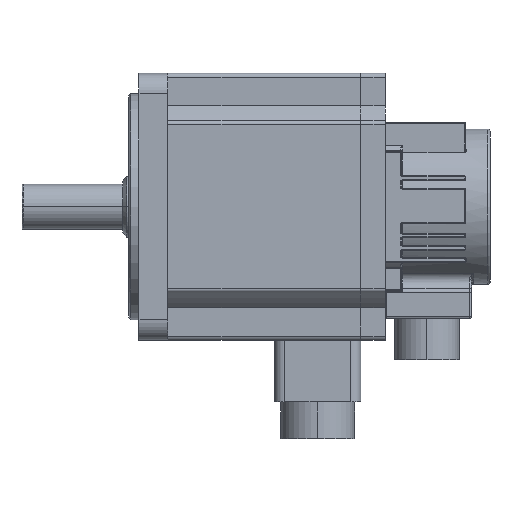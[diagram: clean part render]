
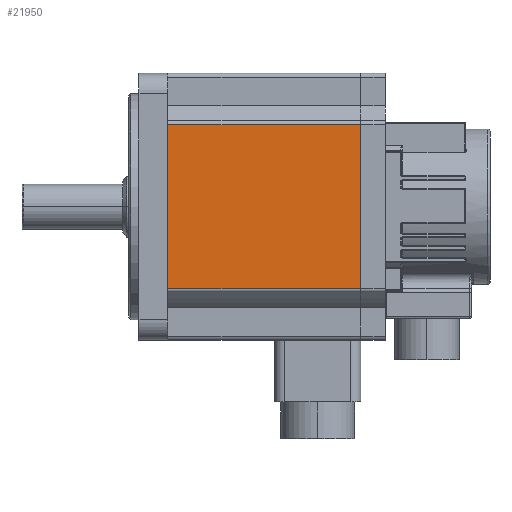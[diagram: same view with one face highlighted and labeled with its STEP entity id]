
A CAD part, left-side view. The second image highlights one B-rep face of the part: STEP entity #21950.
In plain terms, the highlighted planar face has unit normal (-1, 0, 0) as drawn and (0, 0, 1) by its records, which use the part's own axes.
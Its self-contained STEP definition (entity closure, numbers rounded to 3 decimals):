
#816 = DIRECTION ( 'NONE',  ( 1., 0., 0. ) ) ;
#2396 = CARTESIAN_POINT ( 'NONE',  ( -40., 106., 65. ) ) ;
#2471 = VERTEX_POINT ( 'NONE', #21814 ) ;
#2749 = DIRECTION ( 'NONE',  ( 0., -1., 0. ) ) ;
#2783 = ORIENTED_EDGE ( 'NONE', *, *, #4133, .F. ) ;
#2900 = CARTESIAN_POINT ( 'NONE',  ( 40., 12., 65. ) ) ;
#4133 = EDGE_CURVE ( 'NONE', #5011, #18343, #24466, .T. ) ;
#4277 = ORIENTED_EDGE ( 'NONE', *, *, #10305, .T. ) ;
#4394 = DIRECTION ( 'NONE',  ( 1., 0., 0. ) ) ;
#4397 = LINE ( 'NONE', #10620, #15228 ) ;
#5011 = VERTEX_POINT ( 'NONE', #23924 ) ;
#6122 = VECTOR ( 'NONE', #4394, 1000. ) ;
#6636 = LINE ( 'NONE', #2396, #6122 ) ;
#8631 = DIRECTION ( 'NONE',  ( 0., -1., 0. ) ) ;
#8809 = EDGE_CURVE ( 'NONE', #2471, #25340, #4397, .T. ) ;
#10005 = DIRECTION ( 'NONE',  ( -1., 0., 0. ) ) ;
#10139 = DIRECTION ( 'NONE',  ( 0., 0., -1. ) ) ;
#10236 = ORIENTED_EDGE ( 'NONE', *, *, #12495, .F. ) ;
#10305 = EDGE_CURVE ( 'NONE', #25340, #18343, #11164, .T. ) ;
#10514 = ORIENTED_EDGE ( 'NONE', *, *, #8809, .T. ) ;
#10620 = CARTESIAN_POINT ( 'NONE',  ( -40., 106., 65. ) ) ;
#11164 = LINE ( 'NONE', #13686, #16307 ) ;
#12495 = EDGE_CURVE ( 'NONE', #2471, #5011, #6636, .T. ) ;
#13686 = CARTESIAN_POINT ( 'NONE',  ( -40., 12., 65. ) ) ;
#15228 = VECTOR ( 'NONE', #8631, 1000. ) ;
#15765 = CARTESIAN_POINT ( 'NONE',  ( 40., 106., 65. ) ) ;
#16083 = CARTESIAN_POINT ( 'NONE',  ( -40., 106., 65. ) ) ;
#16307 = VECTOR ( 'NONE', #816, 1000. ) ;
#18173 = FACE_OUTER_BOUND ( 'NONE', #18587, .T. ) ;
#18343 = VERTEX_POINT ( 'NONE', #2900 ) ;
#18587 = EDGE_LOOP ( 'NONE', ( #4277, #2783, #10236, #10514 ) ) ;
#21814 = CARTESIAN_POINT ( 'NONE',  ( -40., 106., 65. ) ) ;
#21950 = ADVANCED_FACE ( 'NONE', ( #18173 ), #22808, .F. ) ;
#22808 = PLANE ( 'NONE',  #24002 ) ;
#23924 = CARTESIAN_POINT ( 'NONE',  ( 40., 106., 65. ) ) ;
#24002 = AXIS2_PLACEMENT_3D ( 'NONE', #16083, #10139, #10005 ) ;
#24466 = LINE ( 'NONE', #15765, #26712 ) ;
#25340 = VERTEX_POINT ( 'NONE', #26495 ) ;
#26495 = CARTESIAN_POINT ( 'NONE',  ( -40., 12., 65. ) ) ;
#26712 = VECTOR ( 'NONE', #2749, 1000. ) ;
